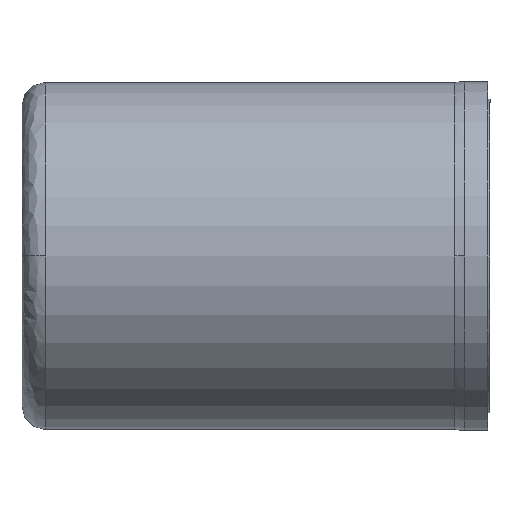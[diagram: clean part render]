
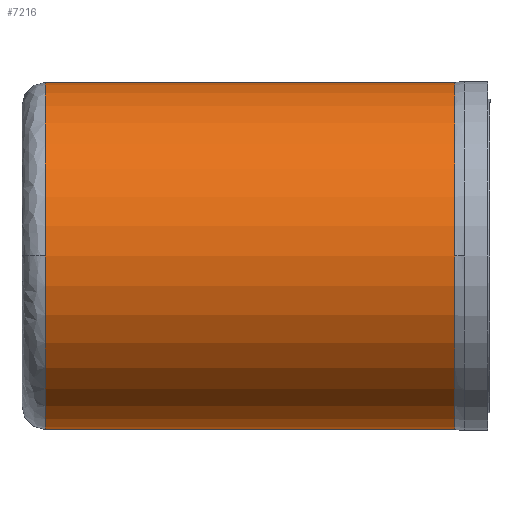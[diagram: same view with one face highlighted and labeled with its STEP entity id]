
A CAD part, front view. The second image highlights one B-rep face of the part: STEP entity #7216.
In plain terms, the highlighted cylindrical face has radius 18.55 mm (diameter 37.1 mm), a partial arc.
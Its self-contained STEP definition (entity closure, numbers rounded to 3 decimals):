
#882 = CARTESIAN_POINT ( 'NONE',  ( -3.75, 0., 18.55 ) ) ;
#1909 = VERTEX_POINT ( 'NONE', #26051 ) ;
#2219 = EDGE_CURVE ( 'NONE', #1909, #14401, #4120, .T. ) ;
#2609 = DIRECTION ( 'NONE',  ( 1., 0., 0. ) ) ;
#2824 = EDGE_CURVE ( 'NONE', #13505, #15377, #3658, .T. ) ;
#3309 = CARTESIAN_POINT ( 'NONE',  ( -47.5, 0., -18.55 ) ) ;
#3445 = CARTESIAN_POINT ( 'NONE',  ( -47.5, 0., 18.55 ) ) ;
#3562 = AXIS2_PLACEMENT_3D ( 'NONE', #17817, #2609, #20384 ) ;
#3658 = LINE ( 'NONE', #24212, #25006 ) ;
#4120 = CIRCLE ( 'NONE', #29443, 18.55 ) ;
#6432 = AXIS2_PLACEMENT_3D ( 'NONE', #27863, #31132, #27648 ) ;
#6466 = AXIS2_PLACEMENT_3D ( 'NONE', #26338, #26295, #26284 ) ;
#6963 = CARTESIAN_POINT ( 'NONE',  ( -3.75, 0., 0. ) ) ;
#7216 = ADVANCED_FACE ( 'NONE', ( #26307 ), #14823, .T. ) ;
#7278 = EDGE_CURVE ( 'NONE', #30330, #27278, #22515, .T. ) ;
#8781 = EDGE_LOOP ( 'NONE', ( #23721, #23672, #31359, #21919, #16486, #25386 ) ) ;
#9501 = DIRECTION ( 'NONE',  ( 0., 0., -1. ) ) ;
#10324 = DIRECTION ( 'NONE',  ( 0., 0., -1. ) ) ;
#10351 = DIRECTION ( 'NONE',  ( 1., 0., 0. ) ) ;
#10387 = CARTESIAN_POINT ( 'NONE',  ( -47.5, 0., 0. ) ) ;
#12772 = CARTESIAN_POINT ( 'NONE',  ( -3.75, -18.55, 0. ) ) ;
#13402 = LINE ( 'NONE', #27072, #17270 ) ;
#13505 = VERTEX_POINT ( 'NONE', #3445 ) ;
#14401 = VERTEX_POINT ( 'NONE', #3309 ) ;
#14823 = CYLINDRICAL_SURFACE ( 'NONE', #6432, 18.55 ) ;
#15377 = VERTEX_POINT ( 'NONE', #882 ) ;
#16486 = ORIENTED_EDGE ( 'NONE', *, *, #7278, .T. ) ;
#17270 = VECTOR ( 'NONE', #22277, 1000. ) ;
#17817 = CARTESIAN_POINT ( 'NONE',  ( -47.5, 0., 0. ) ) ;
#18861 = AXIS2_PLACEMENT_3D ( 'NONE', #6963, #24586, #9501 ) ;
#20384 = DIRECTION ( 'NONE',  ( 0., 0., -1. ) ) ;
#21919 = ORIENTED_EDGE ( 'NONE', *, *, #23998, .T. ) ;
#22277 = DIRECTION ( 'NONE',  ( 1., 0., 0. ) ) ;
#22515 = CIRCLE ( 'NONE', #6466, 18.55 ) ;
#23003 = CIRCLE ( 'NONE', #18861, 18.55 ) ;
#23672 = ORIENTED_EDGE ( 'NONE', *, *, #30926, .T. ) ;
#23721 = ORIENTED_EDGE ( 'NONE', *, *, #2824, .F. ) ;
#23998 = EDGE_CURVE ( 'NONE', #14401, #30330, #13402, .T. ) ;
#24212 = CARTESIAN_POINT ( 'NONE',  ( -26.875, 0., 18.55 ) ) ;
#24586 = DIRECTION ( 'NONE',  ( -1., 0., 0. ) ) ;
#25006 = VECTOR ( 'NONE', #29848, 1000. ) ;
#25386 = ORIENTED_EDGE ( 'NONE', *, *, #30732, .T. ) ;
#26051 = CARTESIAN_POINT ( 'NONE',  ( -47.5, -18.55, 0. ) ) ;
#26284 = DIRECTION ( 'NONE',  ( 0., 0., -1. ) ) ;
#26295 = DIRECTION ( 'NONE',  ( -1., 0., 0. ) ) ;
#26307 = FACE_OUTER_BOUND ( 'NONE', #8781, .T. ) ;
#26338 = CARTESIAN_POINT ( 'NONE',  ( -3.75, 0., 0. ) ) ;
#27072 = CARTESIAN_POINT ( 'NONE',  ( -26.875, 0., -18.55 ) ) ;
#27278 = VERTEX_POINT ( 'NONE', #12772 ) ;
#27648 = DIRECTION ( 'NONE',  ( 0., 0., -1. ) ) ;
#27863 = CARTESIAN_POINT ( 'NONE',  ( -26.875, 0., 0. ) ) ;
#28302 = CARTESIAN_POINT ( 'NONE',  ( -3.75, 0., -18.55 ) ) ;
#29443 = AXIS2_PLACEMENT_3D ( 'NONE', #10387, #10351, #10324 ) ;
#29848 = DIRECTION ( 'NONE',  ( 1., 0., 0. ) ) ;
#30327 = CIRCLE ( 'NONE', #3562, 18.55 ) ;
#30330 = VERTEX_POINT ( 'NONE', #28302 ) ;
#30732 = EDGE_CURVE ( 'NONE', #27278, #15377, #23003, .T. ) ;
#30926 = EDGE_CURVE ( 'NONE', #13505, #1909, #30327, .T. ) ;
#31132 = DIRECTION ( 'NONE',  ( 1., 0., 0. ) ) ;
#31359 = ORIENTED_EDGE ( 'NONE', *, *, #2219, .T. ) ;
